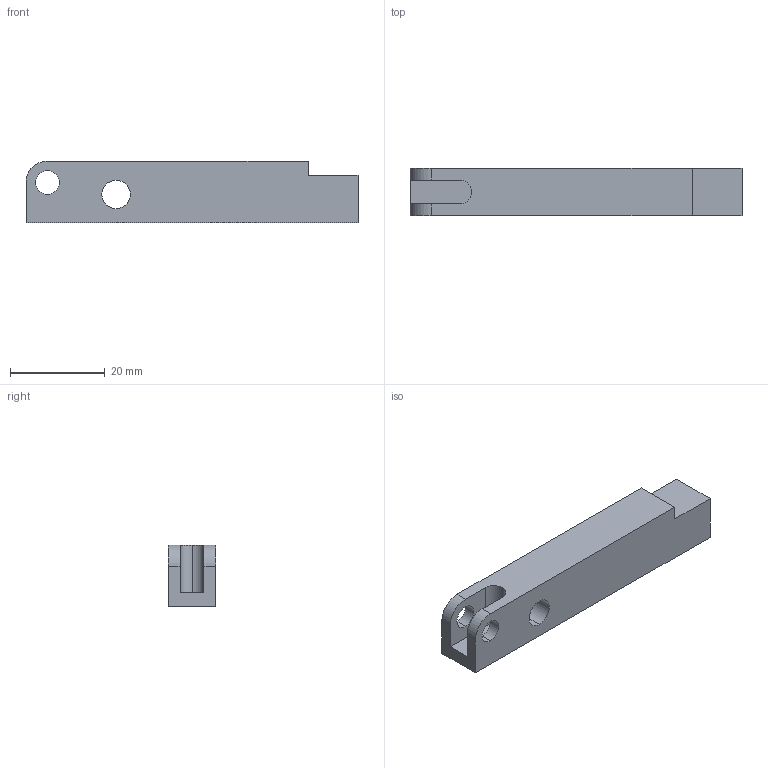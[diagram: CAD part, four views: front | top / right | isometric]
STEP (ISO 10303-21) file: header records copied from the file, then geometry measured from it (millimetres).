
FILE_DESCRIPTION (( 'STEP AP203' ), '1' );
FILE_NAME ('4193 152.STEP', '2017-11-29T09:50:42', ( '' ), ( '' ), 'SwSTEP 2.0', 'SolidWorks 2015', '' );
FILE_SCHEMA (( 'CONFIG_CONTROL_DESIGN' ));
Length unit declared in the file: millimetre
Products named in the file (1): 4193 152
Bounding box: 70 x 10 x 13 mm (x, y, z)
Volume: 7759.2 mm3; surface area: 3760.4 mm2
Topology: 1 solids, 1 shells, 21 faces, 57 edges, 38 vertices
Faces by surface type: plane 11, cylinder 10
Entity records: 760 total; most frequent: DIRECTION 121, CARTESIAN_POINT 117, ORIENTED_EDGE 114, EDGE_CURVE 57, AXIS2_PLACEMENT_3D 42, VERTEX_POINT 38, VECTOR 37, LINE 37
